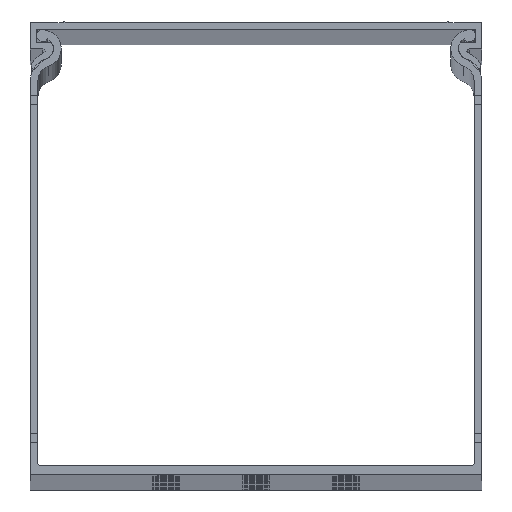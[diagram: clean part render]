
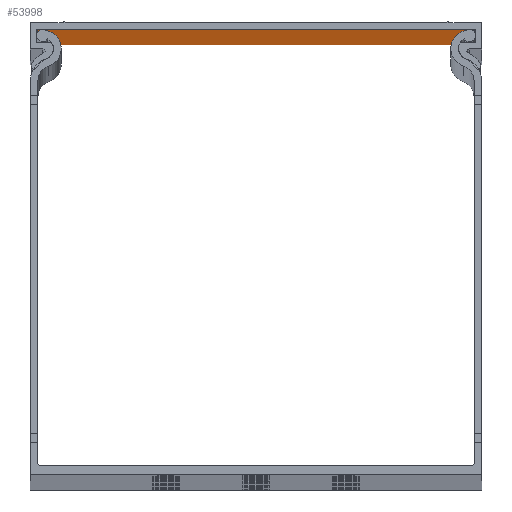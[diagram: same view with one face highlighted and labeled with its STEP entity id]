
A CAD part, top view. The second image highlights one B-rep face of the part: STEP entity #53998.
In plain terms, the highlighted planar face has unit normal (0, -1, 0).
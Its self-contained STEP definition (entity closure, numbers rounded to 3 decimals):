
#3105 = EDGE_CURVE ( 'NONE', #41418, #53655, #11179, .T. ) ;
#4437 = EDGE_CURVE ( 'NONE', #27393, #46111, #40506, .T. ) ;
#5931 = FACE_OUTER_BOUND ( 'NONE', #57924, .T. ) ;
#6595 = DIRECTION ( 'NONE',  ( 1., 0., 0. ) ) ;
#7871 = DIRECTION ( 'NONE',  ( 0., 0., 1. ) ) ;
#9511 = ORIENTED_EDGE ( 'NONE', *, *, #3105, .F. ) ;
#10805 = VECTOR ( 'NONE', #6595, 1000. ) ;
#11179 = LINE ( 'NONE', #33726, #60454 ) ;
#11650 = CARTESIAN_POINT ( 'NONE',  ( 2568.407, 1295.656, 0. ) ) ;
#11801 = VECTOR ( 'NONE', #19685, 1000. ) ;
#19685 = DIRECTION ( 'NONE',  ( 1., 0., 0. ) ) ;
#20250 = AXIS2_PLACEMENT_3D ( 'NONE', #23515, #39291, #7871 ) ;
#20429 = DIRECTION ( 'NONE',  ( 0., 0., -1. ) ) ;
#22380 = CARTESIAN_POINT ( 'NONE',  ( 2616.807, 1295.656, 2000. ) ) ;
#23515 = CARTESIAN_POINT ( 'NONE',  ( 2568.407, 1295.656, 2000. ) ) ;
#27393 = VERTEX_POINT ( 'NONE', #49045 ) ;
#27435 = EDGE_CURVE ( 'NONE', #46111, #53655, #67441, .T. ) ;
#28367 = CARTESIAN_POINT ( 'NONE',  ( 2520.007, 1295.656, 0. ) ) ;
#29044 = VECTOR ( 'NONE', #20429, 1000. ) ;
#33726 = CARTESIAN_POINT ( 'NONE',  ( 2616.807, 1295.656, 2000. ) ) ;
#34117 = ORIENTED_EDGE ( 'NONE', *, *, #27435, .T. ) ;
#35534 = LINE ( 'NONE', #57080, #11801 ) ;
#38265 = DIRECTION ( 'NONE',  ( 0., 0., -1. ) ) ;
#39291 = DIRECTION ( 'NONE',  ( 0., 1., 0. ) ) ;
#40506 = LINE ( 'NONE', #67919, #29044 ) ;
#41418 = VERTEX_POINT ( 'NONE', #22380 ) ;
#46111 = VERTEX_POINT ( 'NONE', #28367 ) ;
#49045 = CARTESIAN_POINT ( 'NONE',  ( 2520.007, 1295.656, 2000. ) ) ;
#53655 = VERTEX_POINT ( 'NONE', #62108 ) ;
#53998 = ADVANCED_FACE ( 'NONE', ( #5931 ), #66409, .F. ) ;
#55546 = ORIENTED_EDGE ( 'NONE', *, *, #4437, .T. ) ;
#57080 = CARTESIAN_POINT ( 'NONE',  ( 2568.407, 1295.656, 2000. ) ) ;
#57924 = EDGE_LOOP ( 'NONE', ( #34117, #9511, #58405, #55546 ) ) ;
#58405 = ORIENTED_EDGE ( 'NONE', *, *, #66819, .F. ) ;
#60454 = VECTOR ( 'NONE', #38265, 1000. ) ;
#62108 = CARTESIAN_POINT ( 'NONE',  ( 2616.807, 1295.656, 0. ) ) ;
#66409 = PLANE ( 'NONE',  #20250 ) ;
#66819 = EDGE_CURVE ( 'NONE', #27393, #41418, #35534, .T. ) ;
#67441 = LINE ( 'NONE', #11650, #10805 ) ;
#67919 = CARTESIAN_POINT ( 'NONE',  ( 2520.007, 1295.656, 2000. ) ) ;
